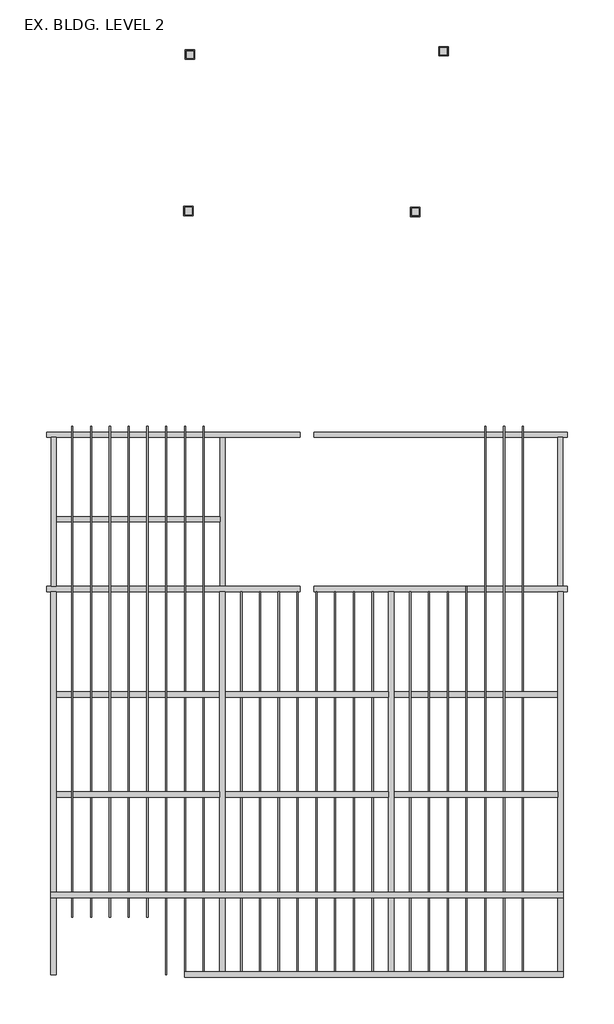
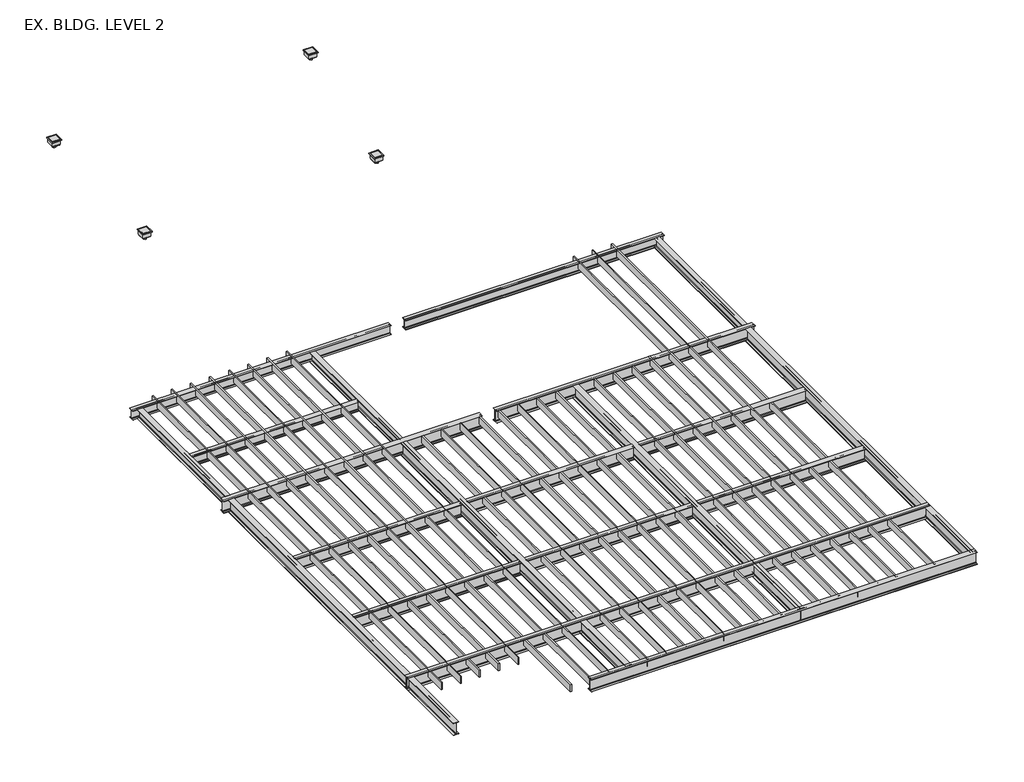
# One storey: 43 beams, 4 flow terminals.
"""IFC4 building model written with IfcOpenShell, lengths in millimetres."""

from ifc_helpers import new_model, si_unit, origin, place, context, project, spatial, transform, mapped, element, save
from components import dimension_lumber_2x10_0c370c37, dimension_lumber_2x10_bac01d1d, dimension_lumber_2x10_b767232e, dimension_lumber_2x10_1dc64cbc, dimension_lumber_2x10_dc27a706, w_wide_flange_w12x26_d550ef31, w_wide_flange_w12x26_1716f5f9, w_wide_flange_w12x26_f9701f0b, w_wide_flange_w12x26_5f518428, w_wide_flange_w12x26_e4c531ea, w_wide_flange_w12x26_147ca0f3, w_wide_flange_w16x36_bd9ffc40, w_wide_flange_w16x36_e2987c07, w_wide_flange_w16x36_55c65670, w_wide_flange_w16x36_fe6ed859, w_wide_flange_w16x36_ed80a345, w_wide_flange_w16x36_82c507be, w_wide_flange_w16x36_c4b9c51e, w_wide_flange_w16x36_73efc18d, w_wide_flange_w16x36_33568e6e, plumbing_floor_drain_01_3009_04_59585885

model = new_model("IFC4")

# Units and contexts
model_context = context("Model", 3, world=origin())
ifc_project = project(units=[si_unit("LENGTHUNIT", "METRE", prefix="MILLI")], contexts=[model_context])

# Site, building, storey
site = spatial("IfcSite", under=ifc_project)
building = spatial("IfcBuilding", under=site)
storey = spatial("IfcBuildingStorey", under=building, Name="EX. BLDG. LEVEL 2", Elevation=294830.5)

# Beams
placement = place(None, origin())
dimension_lumber_2x10_shape = dimension_lumber_2x10_0c370c37(model_context)
element("IfcBeam", 1, ObjectType="Dimension Lumber : 2x10", at=placement, inside=storey, context=model_context, shape_type="MappedRepresentation", body=[
    mapped(dimension_lumber_2x10_shape, transform((29104.1406651, 197243.4763434, 294713.025), x_axis=(0.0, -1.0, 0.0), y_axis=(1.0, 0.0, 0.0), z_axis=(0.0, 0.0, 1.0))),
])
element("IfcBeam", 2, ObjectType="Dimension Lumber : 2x10", at=placement, inside=storey, context=model_context, shape_type="MappedRepresentation", body=[
    mapped(dimension_lumber_2x10_shape, transform((29713.7406651, 197243.4763434, 294713.025), x_axis=(0.0, -1.0, 0.0), y_axis=(1.0, 0.0, 0.0), z_axis=(0.0, 0.0, 1.0))),
])
element("IfcBeam", 3, ObjectType="Dimension Lumber : 2x10", at=placement, inside=storey, context=model_context, shape_type="MappedRepresentation", body=[
    mapped(dimension_lumber_2x10_shape, transform((30323.3406651, 197243.4763434, 294713.025), x_axis=(0.0, -1.0, 0.0), y_axis=(1.0, 0.0, 0.0), z_axis=(0.0, 0.0, 1.0))),
])
element("IfcBeam", 4, ObjectType="Dimension Lumber : 2x10", at=placement, inside=storey, context=model_context, shape_type="MappedRepresentation", body=[
    mapped(dimension_lumber_2x10_shape, transform((30932.9406651, 197243.4763434, 294713.025), x_axis=(0.0, -1.0, 0.0), y_axis=(1.0, 0.0, 0.0), z_axis=(0.0, 0.0, 1.0))),
])
element("IfcBeam", 5, ObjectType="Dimension Lumber : 2x10", at=placement, inside=storey, context=model_context, shape_type="MappedRepresentation", body=[
    mapped(dimension_lumber_2x10_shape, transform((31542.5406651, 197243.4763434, 294713.025), x_axis=(0.0, -1.0, 0.0), y_axis=(1.0, 0.0, 0.0), z_axis=(0.0, 0.0, 1.0))),
])
element("IfcBeam", 6, ObjectType="Dimension Lumber : 2x10", at=placement, inside=storey, context=model_context, shape_type="MappedRepresentation", body=[
    mapped(dimension_lumber_2x10_shape, transform((32152.1406651, 197243.4763434, 294713.025), x_axis=(0.0, -1.0, 0.0), y_axis=(1.0, 0.0, 0.0), z_axis=(0.0, 0.0, 1.0))),
])
element("IfcBeam", 7, ObjectType="Dimension Lumber : 2x10", at=placement, inside=storey, context=model_context, shape_type="MappedRepresentation", body=[
    mapped(dimension_lumber_2x10_shape, transform((32761.7406651, 197243.4763434, 294713.025), x_axis=(0.0, -1.0, 0.0), y_axis=(1.0, 0.0, 0.0), z_axis=(0.0, 0.0, 1.0))),
])
element("IfcBeam", 8, ObjectType="Dimension Lumber : 2x10", at=placement, inside=storey, context=model_context, shape_type="MappedRepresentation", body=[
    mapped(dimension_lumber_2x10_shape, transform((33371.3406651, 197243.4763434, 294713.025), x_axis=(0.0, -1.0, 0.0), y_axis=(1.0, 0.0, 0.0), z_axis=(0.0, 0.0, 1.0))),
])
dimension_lumber_2x10_2_shape = dimension_lumber_2x10_bac01d1d(model_context)
element("IfcBeam", 9, ObjectType="Dimension Lumber : 2x10", at=placement, inside=storey, context=model_context, shape_type="MappedRepresentation", body=[
    mapped(dimension_lumber_2x10_2_shape, transform((35809.7406651, 197243.4763434, 294713.025), x_axis=(0.0, -1.0, 0.0), y_axis=(1.0, 0.0, 0.0), z_axis=(0.0, 0.0, 1.0))),
])
element("IfcBeam", 10, ObjectType="Dimension Lumber : 2x10", at=placement, inside=storey, context=model_context, shape_type="MappedRepresentation", body=[
    mapped(dimension_lumber_2x10_2_shape, transform((35200.1406651, 197243.4763434, 294713.025), x_axis=(0.0, -1.0, 0.0), y_axis=(1.0, 0.0, 0.0), z_axis=(0.0, 0.0, 1.0))),
])
element("IfcBeam", 11, ObjectType="Dimension Lumber : 2x10", at=placement, inside=storey, context=model_context, shape_type="MappedRepresentation", body=[
    mapped(dimension_lumber_2x10_2_shape, transform((34590.5406651, 197243.4763434, 294713.025), x_axis=(0.0, -1.0, 0.0), y_axis=(1.0, 0.0, 0.0), z_axis=(0.0, 0.0, 1.0))),
])
dimension_lumber_2x10_3_shape = dimension_lumber_2x10_b767232e(model_context)
element("IfcBeam", 12, ObjectType="Dimension Lumber : 2x10", at=placement, inside=storey, context=model_context, shape_type="MappedRepresentation", body=[
    mapped(dimension_lumber_2x10_3_shape, transform((36419.3406651, 197243.4763434, 294713.025), x_axis=(0.0, -1.0, 0.0), y_axis=(1.0, 0.0, 0.0), z_axis=(0.0, 0.0, 1.0))),
])
dimension_lumber_2x10_4_shape = dimension_lumber_2x10_1dc64cbc(model_context)
element("IfcBeam", 13, ObjectType="Dimension Lumber : 2x10", at=placement, inside=storey, context=model_context, shape_type="MappedRepresentation", body=[
    mapped(dimension_lumber_2x10_4_shape, transform((27884.9406651, 197243.4763434, 294713.025), x_axis=(0.0, -1.0, 0.0), y_axis=(1.0, 0.0, 0.0), z_axis=(0.0, 0.0, 1.0))),
])
element("IfcBeam", 14, ObjectType="Dimension Lumber : 2x10", at=placement, inside=storey, context=model_context, shape_type="MappedRepresentation", body=[
    mapped(dimension_lumber_2x10_4_shape, transform((27275.3406651, 197243.4763434, 294713.025), x_axis=(0.0, -1.0, 0.0), y_axis=(1.0, 0.0, 0.0), z_axis=(0.0, 0.0, 1.0))),
])
element("IfcBeam", 15, ObjectType="Dimension Lumber : 2x10", at=placement, inside=storey, context=model_context, shape_type="MappedRepresentation", body=[
    mapped(dimension_lumber_2x10_4_shape, transform((26665.7406651, 197243.4763434, 294713.025), x_axis=(0.0, -1.0, 0.0), y_axis=(1.0, 0.0, 0.0), z_axis=(0.0, 0.0, 1.0))),
])
element("IfcBeam", 16, ObjectType="Dimension Lumber : 2x10", at=placement, inside=storey, context=model_context, shape_type="MappedRepresentation", body=[
    mapped(dimension_lumber_2x10_4_shape, transform((38248.1406651, 197243.4763434, 294713.025), x_axis=(0.0, -1.0, 0.0), y_axis=(1.0, 0.0, 0.0), z_axis=(0.0, 0.0, 1.0))),
])
element("IfcBeam", 17, ObjectType="Dimension Lumber : 2x10", at=placement, inside=storey, context=model_context, shape_type="MappedRepresentation", body=[
    mapped(dimension_lumber_2x10_4_shape, transform((37638.5406651, 197243.4763434, 294713.025), x_axis=(0.0, -1.0, 0.0), y_axis=(1.0, 0.0, 0.0), z_axis=(0.0, 0.0, 1.0))),
])
element("IfcBeam", 18, ObjectType="Dimension Lumber : 2x10", at=placement, inside=storey, context=model_context, shape_type="MappedRepresentation", body=[
    mapped(dimension_lumber_2x10_4_shape, transform((37028.9406651, 197243.4763434, 294713.025), x_axis=(0.0, -1.0, 0.0), y_axis=(1.0, 0.0, 0.0), z_axis=(0.0, 0.0, 1.0))),
])
dimension_lumber_2x10_5_shape = dimension_lumber_2x10_dc27a706(model_context)
element("IfcBeam", 19, ObjectType="Dimension Lumber : 2x10", at=placement, inside=storey, context=model_context, shape_type="MappedRepresentation", body=[
    mapped(dimension_lumber_2x10_5_shape, transform((26056.1406651, 197243.4763434, 294713.025), x_axis=(0.0, -1.0, 0.0), y_axis=(1.0, 0.0, 0.0), z_axis=(0.0, 0.0, 1.0))),
])
element("IfcBeam", 20, ObjectType="Dimension Lumber : 2x10", at=placement, inside=storey, context=model_context, shape_type="MappedRepresentation", body=[
    mapped(dimension_lumber_2x10_5_shape, transform((25446.5406651, 197243.4763434, 294713.025), x_axis=(0.0, -1.0, 0.0), y_axis=(1.0, 0.0, 0.0), z_axis=(0.0, 0.0, 1.0))),
])
element("IfcBeam", 21, ObjectType="Dimension Lumber : 2x10", at=placement, inside=storey, context=model_context, shape_type="MappedRepresentation", body=[
    mapped(dimension_lumber_2x10_5_shape, transform((24836.9406651, 197243.4763434, 294713.025), x_axis=(0.0, -1.0, 0.0), y_axis=(1.0, 0.0, 0.0), z_axis=(0.0, 0.0, 1.0))),
])
element("IfcBeam", 22, ObjectType="Dimension Lumber : 2x10", at=placement, inside=storey, context=model_context, shape_type="MappedRepresentation", body=[
    mapped(dimension_lumber_2x10_5_shape, transform((24227.3406651, 197243.4763434, 294713.025), x_axis=(0.0, -1.0, 0.0), y_axis=(1.0, 0.0, 0.0), z_axis=(0.0, 0.0, 1.0))),
])
element("IfcBeam", 23, ObjectType="Dimension Lumber : 2x10", at=placement, inside=storey, context=model_context, shape_type="MappedRepresentation", body=[
    mapped(dimension_lumber_2x10_5_shape, transform((23617.7406651, 197243.4763434, 294713.025), x_axis=(0.0, -1.0, 0.0), y_axis=(1.0, 0.0, 0.0), z_axis=(0.0, 0.0, 1.0))),
])
w_wide_flange_w12x26_shape = w_wide_flange_w12x26_d550ef31(model_context)
element("IfcBeam", 24, ObjectType="W-Wide Flange : W12X26", at=placement, inside=storey, context=model_context, shape_type="MappedRepresentation", body=[
    mapped(w_wide_flange_w12x26_shape, transform((28494.2504964, 203475.5114935, 294675.56), x_axis=(0.0, -1.0, 0.0), y_axis=(1.0, 0.0, 0.0), z_axis=(0.0, 0.0, 1.0))),
])
w_wide_flange_w12x26_2_shape = w_wide_flange_w12x26_1716f5f9(model_context)
element("IfcBeam", 25, ObjectType="W-Wide Flange : W12X26", at=placement, inside=storey, context=model_context, shape_type="MappedRepresentation", body=[
    mapped(w_wide_flange_w12x26_2_shape, transform((23007.8504964, 203392.9614935, 294675.56), x_axis=(0.0, -1.0, 0.0), y_axis=(1.0, 0.0, 0.0), z_axis=(0.0, 0.0, 1.0))),
])
w_wide_flange_w12x26_3_shape = w_wide_flange_w12x26_f9701f0b(model_context)
element("IfcBeam", 26, ObjectType="W-Wide Flange : W12X26", at=placement, inside=storey, context=model_context, shape_type="MappedRepresentation", body=[
    mapped(w_wide_flange_w12x26_3_shape, transform((39467.0504964, 203240.5614935, 294675.56), x_axis=(0.0, -1.0, 0.0), y_axis=(1.0, 0.0, 0.0), z_axis=(0.0, 0.0, 1.0))),
])
w_wide_flange_w12x26_4_shape = w_wide_flange_w12x26_5f518428(model_context)
element("IfcBeam", 27, ObjectType="W-Wide Flange : W12X26", at=placement, inside=storey, context=model_context, shape_type="MappedRepresentation", body=[
    mapped(w_wide_flange_w12x26_4_shape, transform((27122.6504964, 205983.7614935, 294675.56), x_axis=(1.0, 0.0, 0.0), y_axis=(0.0, 1.0, 0.0), z_axis=(0.0, 0.0, 1.0))),
])
w_wide_flange_w12x26_5_shape = w_wide_flange_w12x26_e4c531ea(model_context)
element("IfcBeam", 28, ObjectType="W-Wide Flange : W12X26", at=placement, inside=storey, context=model_context, shape_type="MappedRepresentation", body=[
    mapped(w_wide_flange_w12x26_5_shape, transform((35352.2504964, 205983.7614935, 294675.56), x_axis=(-1.0, 0.0, 0.0), y_axis=(0.0, -1.0, 0.0), z_axis=(0.0, 0.0, 1.0))),
])
w_wide_flange_w12x26_6_shape = w_wide_flange_w12x26_147ca0f3(model_context)
element("IfcBeam", 29, ObjectType="W-Wide Flange : W12X26", at=placement, inside=storey, context=model_context, shape_type="MappedRepresentation", body=[
    mapped(w_wide_flange_w12x26_6_shape, transform((27122.6504964, 203240.5614935, 294675.56), x_axis=(1.0, 0.0, 0.0), y_axis=(0.0, 1.0, 0.0), z_axis=(0.0, 0.0, 1.0))),
])
w_wide_flange_w16x36_shape = w_wide_flange_w16x36_bd9ffc40(model_context)
element("IfcBeam", 30, ObjectType="W-Wide Flange : W16X36", at=placement, inside=storey, context=model_context, shape_type="MappedRepresentation", body=[
    mapped(w_wide_flange_w16x36_shape, transform((28494.2504964, 194429.5799375, 294628.57), x_axis=(0.0, -1.0, 0.0), y_axis=(1.0, 0.0, 0.0), z_axis=(0.0, 0.0, 1.0))),
])
element("IfcBeam", 31, ObjectType="W-Wide Flange : W16X36", at=placement, inside=storey, context=model_context, shape_type="MappedRepresentation", body=[
    mapped(w_wide_flange_w16x36_shape, transform((33980.6504964, 194429.5799375, 294628.57), x_axis=(0.0, -1.0, 0.0), y_axis=(1.0, 0.0, 0.0), z_axis=(0.0, 0.0, 1.0))),
])
w_wide_flange_w16x36_2_shape = w_wide_flange_w16x36_e2987c07(model_context)
element("IfcBeam", 32, ObjectType="W-Wide Flange : W16X36", at=placement, inside=storey, context=model_context, shape_type="MappedRepresentation", body=[
    mapped(w_wide_flange_w16x36_2_shape, transform((23007.8504964, 194292.6983815, 294628.57), x_axis=(0.0, -1.0, 0.0), y_axis=(1.0, 0.0, 0.0), z_axis=(0.0, 0.0, 1.0))),
])
w_wide_flange_w16x36_3_shape = w_wide_flange_w16x36_55c65670(model_context)
element("IfcBeam", 33, ObjectType="W-Wide Flange : W16X36", at=placement, inside=storey, context=model_context, shape_type="MappedRepresentation", body=[
    mapped(w_wide_flange_w16x36_3_shape, transform((39467.0504964, 194229.1983815, 294628.57), x_axis=(0.0, -1.0, 0.0), y_axis=(1.0, 0.0, 0.0), z_axis=(0.0, 0.0, 1.0))),
])
w_wide_flange_w16x36_4_shape = w_wide_flange_w16x36_fe6ed859(model_context)
element("IfcBeam", 34, ObjectType="W-Wide Flange : W16X36", at=placement, inside=storey, context=model_context, shape_type="MappedRepresentation", body=[
    mapped(w_wide_flange_w16x36_4_shape, transform((27122.6504964, 197550.9614935, 294628.57), x_axis=(1.0, 0.0, 0.0), y_axis=(0.0, 1.0, 0.0), z_axis=(0.0, 0.0, 1.0))),
])
element("IfcBeam", 35, ObjectType="W-Wide Flange : W16X36", at=placement, inside=storey, context=model_context, shape_type="MappedRepresentation", body=[
    mapped(w_wide_flange_w16x36_4_shape, transform((38095.4504964, 197550.9614935, 294628.57), x_axis=(1.0, 0.0, 0.0), y_axis=(0.0, 1.0, 0.0), z_axis=(0.0, 0.0, 1.0))),
])
element("IfcBeam", 36, ObjectType="W-Wide Flange : W16X36", at=placement, inside=storey, context=model_context, shape_type="MappedRepresentation", body=[
    mapped(w_wide_flange_w16x36_4_shape, transform((27122.6504964, 194299.7614935, 294628.57), x_axis=(1.0, 0.0, 0.0), y_axis=(0.0, 1.0, 0.0), z_axis=(0.0, 0.0, 1.0))),
])
element("IfcBeam", 37, ObjectType="W-Wide Flange : W16X36", at=placement, inside=storey, context=model_context, shape_type="MappedRepresentation", body=[
    mapped(w_wide_flange_w16x36_4_shape, transform((38095.4504964, 194299.7614935, 294628.57), x_axis=(1.0, 0.0, 0.0), y_axis=(0.0, 1.0, 0.0), z_axis=(0.0, 0.0, 1.0))),
])
w_wide_flange_w16x36_5_shape = w_wide_flange_w16x36_ed80a345(model_context)
element("IfcBeam", 38, ObjectType="W-Wide Flange : W16X36", at=placement, inside=storey, context=model_context, shape_type="MappedRepresentation", body=[
    mapped(w_wide_flange_w16x36_5_shape, transform((29865.8504964, 197550.9614935, 294628.57), x_axis=(-1.0, 0.0, 0.0), y_axis=(0.0, -1.0, 0.0), z_axis=(0.0, 0.0, 1.0))),
])
element("IfcBeam", 39, ObjectType="W-Wide Flange : W16X36", at=placement, inside=storey, context=model_context, shape_type="MappedRepresentation", body=[
    mapped(w_wide_flange_w16x36_5_shape, transform((29865.8504964, 194299.7614935, 294628.57), x_axis=(-1.0, 0.0, 0.0), y_axis=(0.0, -1.0, 0.0), z_axis=(0.0, 0.0, 1.0))),
])
w_wide_flange_w16x36_6_shape = w_wide_flange_w16x36_82c507be(model_context)
element("IfcBeam", 40, ObjectType="W-Wide Flange : W16X36", at=placement, inside=storey, context=model_context, shape_type="MappedRepresentation", body=[
    mapped(w_wide_flange_w16x36_6_shape, transform((38095.4504964, 191048.4936306, 294628.57), x_axis=(1.0, 0.0, 0.0), y_axis=(0.0, 1.0, 0.0), z_axis=(0.0, 0.0, 1.0))),
])
w_wide_flange_w16x36_7_shape = w_wide_flange_w16x36_c4b9c51e(model_context)
element("IfcBeam", 41, ObjectType="W-Wide Flange : W16X36", at=placement, inside=storey, context=model_context, shape_type="MappedRepresentation", body=[
    mapped(w_wide_flange_w16x36_7_shape, transform((38095.4504964, 188457.6936306, 294628.57), x_axis=(1.0, 0.0, 0.0), y_axis=(0.0, 1.0, 0.0), z_axis=(0.0, 0.0, 1.0))),
])
w_wide_flange_w16x36_8_shape = w_wide_flange_w16x36_73efc18d(model_context)
element("IfcBeam", 42, ObjectType="W-Wide Flange : W16X36", at=placement, inside=storey, context=model_context, shape_type="MappedRepresentation", body=[
    mapped(w_wide_flange_w16x36_8_shape, transform((35352.2504964, 200967.2614935, 294628.57), x_axis=(1.0, 0.0, 0.0), y_axis=(0.0, 1.0, 0.0), z_axis=(0.0, 0.0, 1.0))),
])
w_wide_flange_w16x36_9_shape = w_wide_flange_w16x36_33568e6e(model_context)
element("IfcBeam", 43, ObjectType="W-Wide Flange : W16X36", at=placement, inside=storey, context=model_context, shape_type="MappedRepresentation", body=[
    mapped(w_wide_flange_w16x36_9_shape, transform((27122.6504964, 200967.2614935, 294628.57), x_axis=(1.0, 0.0, 0.0), y_axis=(0.0, 1.0, 0.0), z_axis=(0.0, 0.0, 1.0))),
])

# Flow terminals
plumbing_floor_drain_01_3009_04_shape = plumbing_floor_drain_01_3009_04_59585885(model_context)
element("IfcFlowTerminal", 44, ObjectType="Plumbing_Floor Drain-01 : 3009-04", at=placement, inside=storey, context=model_context, shape_type="MappedRepresentation", body=[
    mapped(plumbing_floor_drain_01_3009_04_shape, transform((27450.8900038, 218314.1140438, 294830.5), x_axis=(1.0, 0.0, 0.0), y_axis=(0.0, 1.0, 0.0), z_axis=(0.0, 0.0, 1.0))),
])
element("IfcFlowTerminal", 45, ObjectType="Plumbing_Floor Drain-01 : 3009-04", at=placement, inside=storey, context=model_context, shape_type="MappedRepresentation", body=[
    mapped(plumbing_floor_drain_01_3009_04_shape, transform((35684.9258239, 218425.4844579, 294830.5), x_axis=(1.0, 0.0, 0.0), y_axis=(0.0, 1.0, 0.0), z_axis=(0.0, 0.0, 1.0))),
])
element("IfcFlowTerminal", 46, ObjectType="Plumbing_Floor Drain-01 : 3009-04", at=placement, inside=storey, context=model_context, shape_type="MappedRepresentation", body=[
    mapped(plumbing_floor_drain_01_3009_04_shape, transform((34769.0459452, 213210.7182226, 294830.5), x_axis=(1.0, 0.0, 0.0), y_axis=(0.0, 1.0, 0.0), z_axis=(0.0, 0.0, 1.0))),
])
element("IfcFlowTerminal", 47, ObjectType="Plumbing_Floor Drain-01 : 3009-04", at=placement, inside=storey, context=model_context, shape_type="MappedRepresentation", body=[
    mapped(plumbing_floor_drain_01_3009_04_shape, transform((27403.7788213, 213242.0881498, 294830.5), x_axis=(1.0, 0.0, 0.0), y_axis=(0.0, 1.0, 0.0), z_axis=(0.0, 0.0, 1.0))),
])

save(model, "model.ifc")
